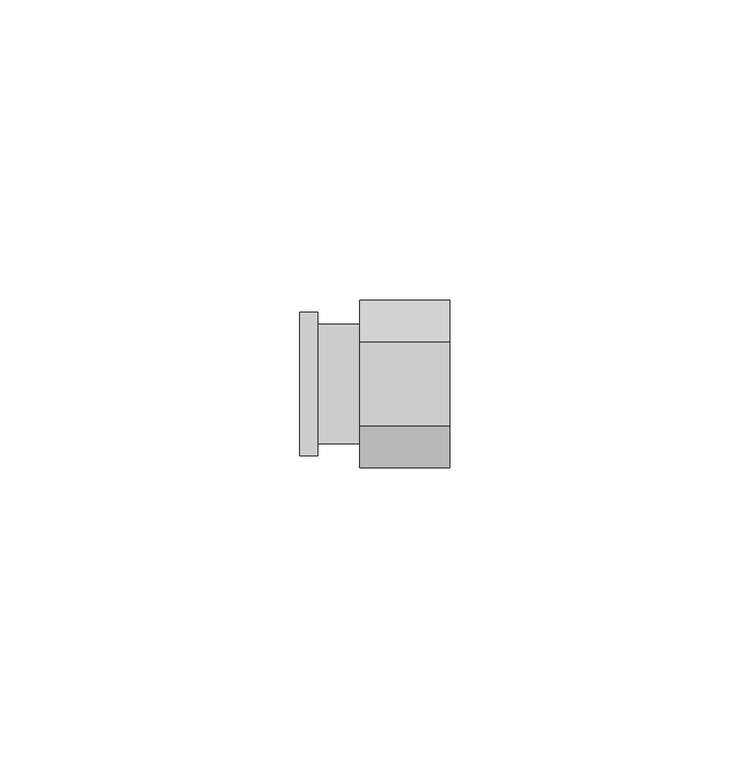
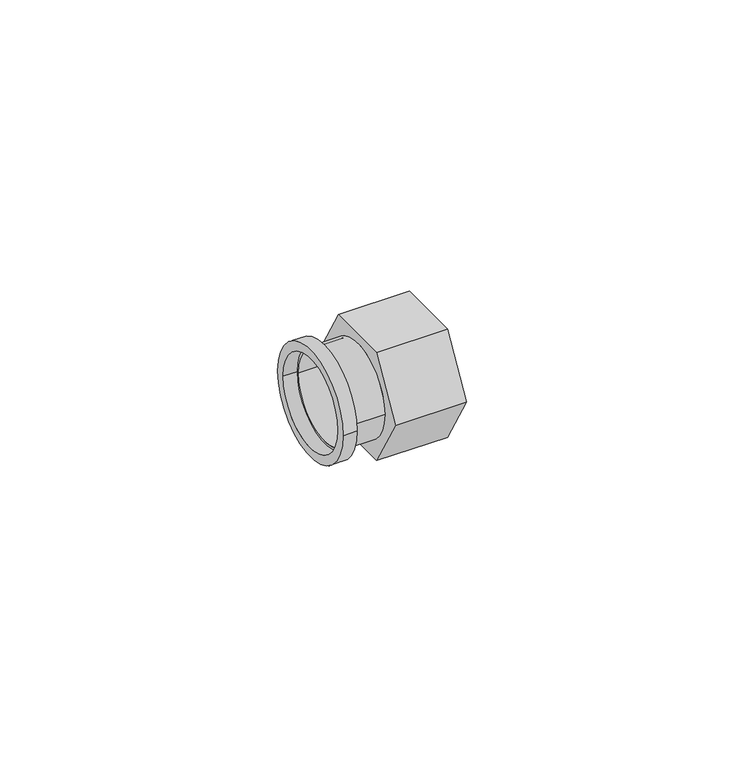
"""IFC4 building model written with IfcOpenShell, lengths in millimetres: pipe fitting geometry, БИР ПЕКС_КМП_Соединитель_Резьба_Наружная : Соединитель прямой с наружной резьбой_КМП."""

from ifc_helpers import new_model, si_unit, point, frame, origin, origin_2d, place, context, project, spatial, polyline, circle_curve, trimmed, segment, composite_curve, outline, extrude, source, transform, mapped, element, save


def pipe_fitting_2f3a7cc1(model_context):
    return source(origin(), model_context, "Body", "SweptSolid", [
        extrude(outline(polyline([(-7.0, -12.1243557), (-14.0, 0.0), (-7.0, 12.1243557), (7.0, 12.1243557), (14.0, 0.0), (7.0, -12.1243557), (-7.0, -12.1243557)]), holes=[composite_curve([segment(trimmed(circle_curve(origin_2d(), 10.0), [point((-10.0, 0.0))], [point((10.0, 0.0))], True, "CARTESIAN"), True, "CONTINUOUS"), segment(trimmed(circle_curve(origin_2d(), 10.0), [point((10.0, 0.0))], [point((-10.0, 0.0))], True, "CARTESIAN"), True, "CONTINUOUS")], self_intersect=False)]), frame((0.0, 0.0, 0.0), z_axis=(1.0, 0.0, 0.0), x_axis=(0.0, 1.0, 0.0)), (0.0, 0.0, 1.0), 15.0),
        extrude(outline(composite_curve([segment(trimmed(circle_curve(origin_2d(), 10.0), [point((-10.0, 0.0))], [point((10.0, 0.0))], False, "CARTESIAN"), True, "CONTINUOUS"), segment(trimmed(circle_curve(origin_2d(), 10.0), [point((10.0, 0.0))], [point((-10.0, 0.0))], False, "CARTESIAN"), True, "CONTINUOUS")], self_intersect=False), holes=[composite_curve([segment(trimmed(circle_curve(origin_2d(), 9.5), [point((-9.5, 0.0))], [point((9.5, 0.0))], True, "CARTESIAN"), True, "CONTINUOUS"), segment(trimmed(circle_curve(origin_2d(), 9.5), [point((9.5, 0.0))], [point((-9.5, 0.0))], True, "CARTESIAN"), True, "CONTINUOUS")], self_intersect=False)]), frame((-7.0, 0.0, 0.0), z_axis=(1.0, 0.0, 0.0), x_axis=(0.0, 1.0, 0.0)), (0.0, 0.0, 1.0), 7.0),
        extrude(outline(composite_curve([segment(trimmed(circle_curve(origin_2d(), 12.0), [point((-12.0, 0.0))], [point((12.0, 0.0))], False, "CARTESIAN"), True, "CONTINUOUS"), segment(trimmed(circle_curve(origin_2d(), 12.0), [point((12.0, 0.0))], [point((-12.0, 0.0))], False, "CARTESIAN"), True, "CONTINUOUS")], self_intersect=False), holes=[composite_curve([segment(trimmed(circle_curve(origin_2d(), 10.0), [point((-10.0, 0.0))], [point((10.0, 0.0))], True, "CARTESIAN"), True, "CONTINUOUS"), segment(trimmed(circle_curve(origin_2d(), 10.0), [point((10.0, 0.0))], [point((-10.0, 0.0))], True, "CARTESIAN"), True, "CONTINUOUS")], self_intersect=False)]), frame((-10.0, 0.0, 0.0), z_axis=(1.0, 0.0, 0.0), x_axis=(0.0, 1.0, 0.0)), (0.0, 0.0, 1.0), 3.0),
    ])


if __name__ == "__main__":
    model = new_model("IFC4")
    model_context = context("Model", 3, world=origin())
    ifc_project = project(units=[si_unit("LENGTHUNIT", "METRE", prefix="MILLI")], contexts=[model_context])
    site = spatial("IfcSite", under=ifc_project)
    building = spatial("IfcBuilding", under=site)
    placement = place(None, origin())
    pipe_fitting_shape = pipe_fitting_2f3a7cc1(model_context)
    element("IfcPipeFitting", 1, ObjectType="БИР ПЕКС_КМП_Соединитель_Резьба_Наружная : Соединитель прямой с наружной резьбой_КМП", at=placement, inside=building, context=model_context, shape_type="MappedRepresentation", body=[
        mapped(pipe_fitting_shape, transform((0.0, 0.0, 0.0), x_axis=(1.0, 0.0, 0.0), y_axis=(0.0, 1.0, 0.0), z_axis=(0.0, 0.0, 1.0))),
    ])
    save(model, "model.ifc")
